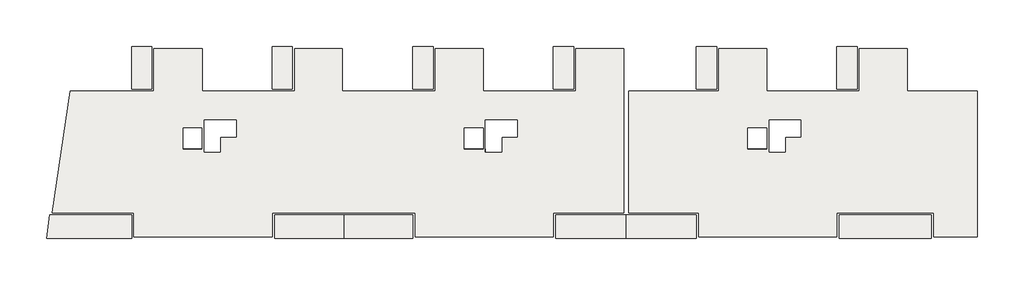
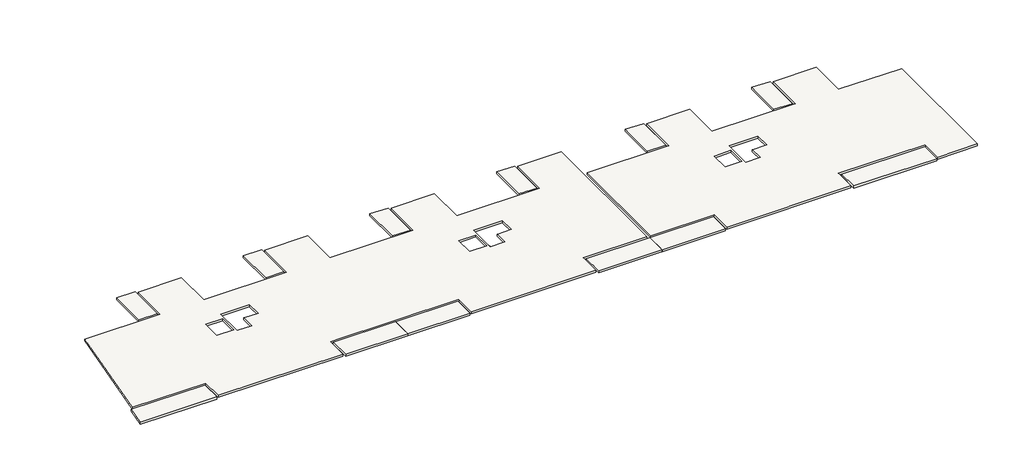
# One storey: 14 slabs, 3 beams.
"""IFC4 building model written with IfcOpenShell, lengths in millimetres."""

from ifc_helpers import new_model, si_unit, frame, origin, place, context, project, spatial, polyline, outline, extrude, faceted_brep, element, save

model = new_model("IFC4")

# Units and contexts
model_context = context("Model", 3, world=origin())
ifc_project = project(units=[si_unit("LENGTHUNIT", "METRE", prefix="MILLI")], contexts=[model_context])

# Site, building, storey
site = spatial("IfcSite", under=ifc_project)
building = spatial("IfcBuilding", under=site)
storey = spatial("IfcBuildingStorey", under=building, Name="Niv +2", Elevation=5400.0)

# Beams
placement = place(None, origin())
element("IfcBeam", 1, ObjectType="FREYS POUTRE BETON : -FREYS béton 20*38 C 25/30", at=placement, inside=storey, context=model_context, shape_type="SweptSolid", body=[
    extrude(outline(polyline([(-20235.4433224, 1086.34287), (-20235.4433224, 1286.34287), (-18635.4741279, 1286.34287), (-18635.4741279, 1086.34287), (-20235.4433224, 1086.34287)])), frame((0.0, 0.0, 5020.0), z_axis=(0.0, 0.0, 1.0), x_axis=(1.0, 0.0, 0.0)), (0.0, 0.0, 1.0), 180.0),
])
element("IfcBeam", 2, ObjectType="FREYS POUTRE BETON : -FREYS béton 20*38 C 25/30", at=placement, inside=storey, context=model_context, shape_type="SweptSolid", body=[
    extrude(outline(polyline([(5564.5312777, 1286.34287), (5564.5312777, 1086.34287), (5562.590834, 1086.34287), (5562.590834, 1286.34287), (5564.5312777, 1286.34287)])), frame((0.0, 0.0, 5200.0), z_axis=(0.0, 0.0, 1.0), x_axis=(1.0, 0.0, 0.0)), (0.0, 0.0, 1.0), 200.0),
    extrude(outline(polyline([(5364.5312777, 1286.34287), (5364.5312777, 1086.34287), (3764.5312756, 1086.34287), (3764.5312756, 1286.34287), (5364.5312777, 1286.34287)])), frame((0.0, 0.0, 5020.0), z_axis=(0.0, 0.0, 1.0), x_axis=(1.0, 0.0, 0.0)), (0.0, 0.0, 1.0), 180.0),
])
element("IfcBeam", 3, ObjectType="FREYS POUTRE BETON : -FREYS béton 20*38 C 25/30", at=placement, inside=storey, context=model_context, shape_type="SweptSolid", body=[
    extrude(outline(polyline([(27964.5312756, 1086.34287), (27964.5312756, 1286.34287), (29564.5058756, 1286.34287), (29564.5058756, 1086.34287), (27964.5312756, 1086.34287)])), frame((0.0, 0.0, 5020.0), z_axis=(0.0, 0.0, 1.0), x_axis=(1.0, 0.0, 0.0)), (0.0, 0.0, 1.0), 180.0),
])

# Slabs
element("IfcSlab", 4, ObjectType="FREYS BA20 C25/30", at=placement, inside=storey, context=model_context, shape_type="Brep", body=[
    faceted_brep([(-22725.443151, 6246.3702418, 5200.0), (-22725.443151, 9876.3428653, 5200.0), (-18615.4433224, 9876.3428653, 5200.0), (-18615.4433224, 6246.3702418, 5200.0), (-10725.0456065, 6246.3702418, 5200.0), (-10725.0456065, 9876.3428653, 5200.0), (-6635.4433224, 9876.3428653, 5200.0), (-6635.4433224, 6246.3428699, 5200.0), (1274.556849, 6246.3428699, 5200.0), (1274.556849, 9876.3428653, 5200.0), (5374.5566776, 9876.3428653, 5200.0), (5374.5566776, 6246.3428699, 5200.0), (13275.4308018, 6246.3428699, 5200.0), (13275.4308018, 9876.3428699, 5200.0), (17374.5566776, 9876.3428699, 5200.0), (17374.5566776, -4173.6825564, 5200.0), (11364.5281637, -4173.6825564, 5200.0), (11364.5281637, -6223.682546, 5200.0), (-435.4687207, -6223.682546, 5200.0), (-435.4687207, -4173.6823111, 5200.0), (-12635.4687207, -4173.6823111, 5200.0), (-12635.4687207, -6223.661173, 5200.0), (-24435.4687207, -6223.661173, 5200.0), (-24435.4687207, -4173.6571231, 5200.0), (-31401.7031415, -4173.6571231, 5200.0), (-29881.1275521, 6246.3702418, 5200.0), (-18635.4741279, 3086.3428699, 5200.0), (-20235.4433224, 3086.3428699, 5200.0), (-20235.4433224, 1286.34287, 5200.0), (-18635.4741279, 1286.34287, 5200.0), (-15715.4423564, 3746.3428169, 5200.0), (-18435.4741279, 3746.3428169, 5200.0), (-18435.4741279, 1046.3702418, 5200.0), (-17055.4423564, 1046.3702418, 5200.0), (-17055.4423564, 2313.1211497, 5200.0), (-15715.4423564, 2313.1211497, 5200.0), (5364.5004702, 3086.3428699, 5200.0), (3764.5312756, 3086.3428699, 5200.0), (3764.5312756, 1286.34287, 5200.0), (5364.5004702, 1286.34287, 5200.0), (8282.6226054, 3746.3428169, 5200.0), (5562.590834, 3746.3428169, 5200.0), (5562.590834, 1286.34287, 5200.0), (5562.590834, 1086.34287, 5200.0), (5562.590834, 1046.3702418, 5200.0), (6942.6226054, 1046.3702418, 5200.0), (6942.6226054, 2313.1211497, 5200.0), (8282.6226054, 2313.1211497, 5200.0), (-22725.443151, 9876.3428653, 5400.0), (-22725.443151, 6246.3702418, 5400.0), (-29881.1275521, 6246.3702418, 5400.0), (-31401.7031415, -4173.6571231, 5400.0), (-24435.4687207, -4173.6571231, 5400.0), (-24435.4687207, -6223.661173, 5400.0), (-12635.4687207, -6223.661173, 5400.0), (-12635.4687207, -4173.6823111, 5400.0), (-435.4687207, -4173.6823111, 5400.0), (-435.4687207, -6223.682546, 5400.0), (11364.5281637, -6223.682546, 5400.0), (11364.5281637, -4173.6825564, 5400.0), (17374.5566776, -4173.6825564, 5400.0), (17374.5566776, 9876.3428699, 5400.0), (13275.4308018, 9876.3428699, 5400.0), (13275.4308018, 6246.3428699, 5400.0), (5374.5566776, 6246.3428699, 5400.0), (5374.5566776, 9876.3428653, 5400.0), (1274.556849, 9876.3428653, 5400.0), (1274.556849, 6246.3428699, 5400.0), (-6635.4433224, 6246.3428699, 5400.0), (-6635.4433224, 9876.3428653, 5400.0), (-10725.0456065, 9876.3428653, 5400.0), (-10725.0456065, 6246.3702418, 5400.0), (-18615.4433224, 6246.3702418, 5400.0), (-18615.4433224, 9876.3428653, 5400.0), (-20235.4433224, 3086.3428699, 5400.0), (-18635.4741279, 3086.3428699, 5400.0), (-18635.4741279, 1286.34287, 5400.0), (-20235.4433224, 1286.34287, 5400.0), (-18435.4741279, 3746.3428169, 5400.0), (-15715.4423564, 3746.3428169, 5400.0), (-15715.4423564, 2313.1211497, 5400.0), (-17055.4423564, 2313.1211497, 5400.0), (-17055.4423564, 1046.3702418, 5400.0), (-18435.4741279, 1046.3702418, 5400.0), (3764.5312756, 3086.3428699, 5400.0), (5364.5004702, 3086.3428699, 5400.0), (5364.5004702, 1286.34287, 5400.0), (3764.5312756, 1286.34287, 5400.0), (5562.590834, 3746.3428169, 5400.0), (8282.6226054, 3746.3428169, 5400.0), (8282.6226054, 2313.1211497, 5400.0), (6942.6226054, 2313.1211497, 5400.0), (6942.6226054, 1046.3702418, 5400.0), (5562.590834, 1046.3702418, 5400.0), (5562.590834, 1086.34287, 5400.0), (5562.590834, 1286.34287, 5400.0)], [[[0, 1, 2, 3, 4, 5, 6, 7, 8, 9, 10, 11, 12, 13, 14, 15, 16, 17, 18, 19, 20, 21, 22, 23, 24, 25], [26, 27, 28, 29], [30, 31, 32, 33, 34, 35], [36, 37, 38, 39], [40, 41, 42, 43, 44, 45, 46, 47]], [[48, 49, 50, 51, 52, 53, 54, 55, 56, 57, 58, 59, 60, 61, 62, 63, 64, 65, 66, 67, 68, 69, 70, 71, 72, 73], [74, 75, 76, 77], [78, 79, 80, 81, 82, 83], [84, 85, 86, 87], [88, 89, 90, 91, 92, 93, 94, 95]], [[1, 0, 49, 48]], [[2, 1, 48, 73]], [[3, 2, 73, 72]], [[4, 3, 72, 71]], [[5, 4, 71, 70]], [[6, 5, 70, 69]], [[7, 6, 69, 68]], [[8, 7, 68, 67]], [[9, 8, 67, 66]], [[10, 9, 66, 65]], [[11, 10, 65, 64]], [[12, 11, 64, 63]], [[13, 12, 63, 62]], [[14, 13, 62, 61]], [[15, 14, 61, 60]], [[16, 15, 60, 59]], [[17, 16, 59, 58]], [[18, 17, 58, 57]], [[19, 18, 57, 56]], [[20, 19, 56, 55]], [[21, 20, 55, 54]], [[22, 21, 54, 53]], [[23, 22, 53, 52]], [[24, 23, 52, 51]], [[25, 24, 51, 50]], [[0, 25, 50, 49]], [[26, 75, 74, 27]], [[27, 74, 77, 28]], [[28, 77, 76, 29]], [[75, 26, 29, 76]], [[30, 79, 78, 31]], [[31, 78, 83, 32]], [[32, 83, 82, 33]], [[33, 82, 81, 34]], [[34, 81, 80, 35]], [[79, 30, 35, 80]], [[36, 85, 84, 37]], [[37, 84, 87, 38]], [[38, 87, 86, 39]], [[85, 36, 39, 86]], [[40, 89, 88, 41]], [[41, 88, 95, 94, 93, 44, 43, 42]], [[44, 93, 92, 45]], [[45, 92, 91, 46]], [[46, 91, 90, 47]], [[89, 40, 47, 90]]]),
])
element("IfcSlab", 5, ObjectType="FREYS BA21-Var C25/30", at=placement, inside=storey, context=model_context, shape_type="SweptSolid", body=[
    extrude(outline(polyline([(5190.0, -12635.4687207), (5190.0, -10905.0456065), (5370.0, -10905.0456065), (5400.0, -12635.4687207), (5190.0, -12635.4687207)])), frame((0.0, 6426.3702418, 0.0), z_axis=(0.0, 1.0, 0.0), x_axis=(0.0, 0.0, 1.0)), (0.0, 0.0, 1.0), 3629.9726235),
])
element("IfcSlab", 6, ObjectType="FREYS BA21-Var C25/30", at=placement, inside=storey, context=model_context, shape_type="SweptSolid", body=[
    extrude(outline(polyline([(5190.0, -24635.8662653), (5190.0, -22905.443151), (5370.0, -22905.443151), (5400.0, -24635.8662653), (5190.0, -24635.8662653)])), frame((0.0, 6426.3702418, 0.0), z_axis=(0.0, 1.0, 0.0), x_axis=(0.0, 0.0, 1.0)), (0.0, 0.0, 1.0), 3629.9726235),
])
element("IfcSlab", 7, ObjectType="FREYS BA21-Var C25/30", at=placement, inside=storey, context=model_context, shape_type="SweptSolid", body=[
    extrude(outline(polyline([(5190.0, -635.8662653), (5190.0, 1094.556849), (5370.0, 1094.556849), (5400.0, -635.8662653), (5190.0, -635.8662653)])), frame((0.0, 6426.3702418, 0.0), z_axis=(0.0, 1.0, 0.0), x_axis=(0.0, 0.0, 1.0)), (0.0, 0.0, 1.0), 3629.9726235),
])
element("IfcSlab", 8, ObjectType="FREYS BA21-Var C25/30", at=placement, inside=storey, context=model_context, shape_type="SweptSolid", body=[
    extrude(outline(polyline([(5190.0, 11364.1337347), (5190.0, 13094.556849), (5370.0, 13094.556849), (5400.0, 11364.1337347), (5190.0, 11364.1337347)])), frame((0.0, 6426.3702418, 0.0), z_axis=(0.0, 1.0, 0.0), x_axis=(0.0, 0.0, 1.0)), (0.0, 0.0, 1.0), 3629.9726235),
])
element("IfcSlab", 9, ObjectType="FREYS BA21-Var C25/30", at=placement, inside=storey, context=model_context, shape_type="SweptSolid", body=[
    extrude(outline(polyline([(5190.0, 23564.1337347), (5190.0, 25294.556849), (5370.0, 25294.556849), (5400.0, 23564.1337347), (5190.0, 23564.1337347)])), frame((0.0, 6426.3702418, 0.0), z_axis=(0.0, 1.0, 0.0), x_axis=(0.0, 0.0, 1.0)), (0.0, 0.0, 1.0), 3629.9726235),
])
element("IfcSlab", 10, ObjectType="FREYS BA21-Var C25/30", at=placement, inside=storey, context=model_context, shape_type="SweptSolid", body=[
    extrude(outline(polyline([(5190.0, 35564.1337347), (5190.0, 37294.556849), (5370.0, 37294.556849), (5400.0, 35564.1337347), (5190.0, 35564.1337347)])), frame((0.0, 6426.3702418, 0.0), z_axis=(0.0, 1.0, 0.0), x_axis=(0.0, 0.0, 1.0)), (0.0, 0.0, 1.0), 3629.9726235),
])
element("IfcSlab", 11, ObjectType="FREYS BA21-Var C25/30", at=placement, inside=storey, context=model_context, shape_type="Brep", body=[
    faceted_brep([(-31893.063979, -6363.6776516, 5190.0), (-31599.7453491, -4353.6571231, 5190.0), (-24635.4687207, -4353.6571231, 5190.0), (-24635.4687207, -6363.6776516, 5190.0), (-31893.063979, -6363.6776516, 5400.0), (-31599.7453491, -4353.6571231, 5370.0), (-24635.4687207, -4353.6571231, 5370.0), (-24635.4687207, -6363.6776516, 5400.0)], [[[0, 1, 2, 3]], [[1, 0, 4, 5]], [[2, 1, 5, 6]], [[3, 2, 6, 7]], [[0, 3, 7, 4]], [[7, 6, 5, 4]]]),
])
element("IfcSlab", 12, ObjectType="FREYS BA21-Var C25/30", at=placement, inside=storey, context=model_context, shape_type="SweptSolid", body=[
    extrude(outline(polyline([(-4353.6823111, 5190.0), (-6363.6782535, 5190.0), (-6363.6782535, 5400.0), (-4353.6823111, 5370.0), (-4353.6823111, 5190.0)])), frame((-12435.4687207, 0.0, 0.0), z_axis=(1.0, 0.0, 0.0), x_axis=(0.0, 1.0, 0.0)), (0.0, 0.0, 1.0), 5894.999993),
])
element("IfcSlab", 13, ObjectType="FREYS BA21-Var C25/30", at=placement, inside=storey, context=model_context, shape_type="SweptSolid", body=[
    extrude(outline(polyline([(-4353.6823111, 5190.0), (-6363.6782535, 5190.0), (-6363.6782535, 5400.0), (-4353.6823111, 5370.0), (-4353.6823111, 5190.0)])), frame((-6530.4687278, 0.0, 0.0), z_axis=(1.0, 0.0, 0.0), x_axis=(0.0, 1.0, 0.0)), (0.0, 0.0, 1.0), 5889.9999999),
])
element("IfcSlab", 14, ObjectType="FREYS BA21-Var C25/30", at=placement, inside=storey, context=model_context, shape_type="SweptSolid", body=[
    extrude(outline(polyline([(-4353.6825564, 5190.0), (-6363.6722782, 5190.0), (-6363.6722782, 5400.0), (-4353.6825564, 5370.0), (-4353.6825564, 5190.0)])), frame((11564.5281637, 0.0, 0.0), z_axis=(1.0, 0.0, 0.0), x_axis=(0.0, 1.0, 0.0)), (0.0, 0.0, 1.0), 5989.9775191),
])
element("IfcSlab", 15, ObjectType="FREYS BA21-Var C25/30", at=placement, inside=storey, context=model_context, shape_type="SweptSolid", body=[
    extrude(outline(polyline([(-4353.6825564, 5190.0), (-6363.6722782, 5190.0), (-6363.6722782, 5400.0), (-4353.6825564, 5370.0), (-4353.6825564, 5190.0)])), frame((17574.5789126, 0.0, 0.0), z_axis=(1.0, 0.0, 0.0), x_axis=(0.0, 1.0, 0.0)), (0.0, 0.0, 1.0), 5989.9775191),
])
element("IfcSlab", 16, ObjectType="FREYS BA21-Var C25/30", at=placement, inside=storey, context=model_context, shape_type="SweptSolid", body=[
    extrude(outline(polyline([(-4353.6837353, 5190.0), (-6363.6732471, 5190.0), (-6363.6732471, 5400.0), (-4353.6837353, 5370.0), (-4353.6837353, 5190.0)])), frame((35764.5312786, 0.0, 0.0), z_axis=(1.0, 0.0, 0.0), x_axis=(0.0, 1.0, 0.0)), (0.0, 0.0, 1.0), 7860.0251625),
])
element("IfcSlab", 17, ObjectType="FREYS BA20 C25/30", at=placement, inside=storey, context=model_context, shape_type="SweptSolid", body=[
    extrude(outline(polyline([(25474.556849, 6246.3428699), (25474.556849, 9874.7647075), (29584.5566776, 9874.7647075), (29584.5566776, 6246.3428699), (37474.5566776, 6246.3428699), (37474.5566776, 9876.3428653), (41564.5566776, 9876.3428653), (41564.5566776, 6246.3428699), (47554.5312792, 6246.3428699), (47554.5312792, -6223.7079703), (43804.5564412, -6223.7079703), (43804.5564412, -4173.6837353), (35564.5312786, -4173.6837353), (35564.5312786, -6223.682253), (23764.5564317, -6223.682253), (23764.5564317, -4173.682553), (17774.5566776, -4173.682553), (17774.5566776, 6246.3428699), (25474.556849, 6246.3428699)]), holes=[polyline([(29564.5004702, 3086.3428699), (27964.5312756, 3086.3428699), (27964.5312756, 1286.34287), (29564.5004702, 1286.34287), (29564.5004702, 3086.3428699)]), polyline([(32484.537647, 3746.3428169), (29764.5058756, 3746.3428169), (29764.5058756, 1046.3702418), (31144.537647, 1046.3702418), (31144.537647, 2313.1211497), (32484.537647, 2313.1211497), (32484.537647, 3746.3428169)])]), frame((0.0, 0.0, 5200.0), z_axis=(0.0, 0.0, 1.0), x_axis=(1.0, 0.0, 0.0)), (0.0, 0.0, 1.0), 200.0),
])

save(model, "model.ifc")
